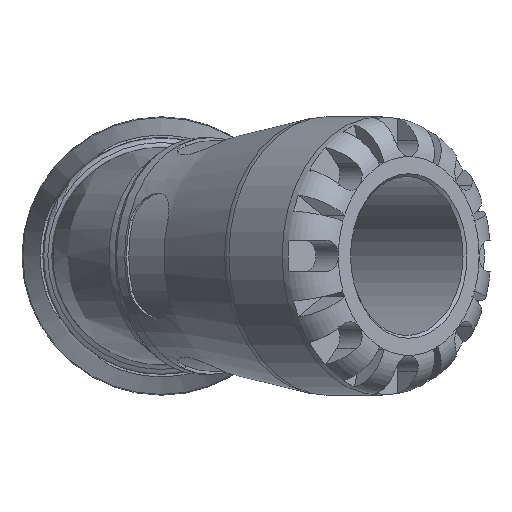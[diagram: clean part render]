
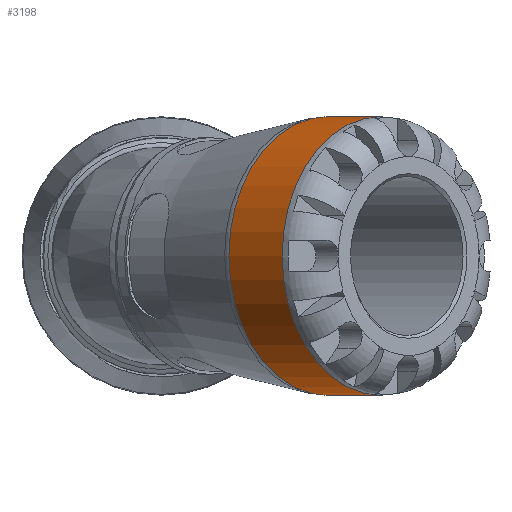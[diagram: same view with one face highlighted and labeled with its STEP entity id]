
A CAD part, left-side view. The second image highlights one B-rep face of the part: STEP entity #3198.
In plain terms, the highlighted cylindrical face has radius 35 mm (diameter 70 mm), a full revolution.
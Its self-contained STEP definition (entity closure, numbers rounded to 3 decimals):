
#469=CYLINDRICAL_SURFACE('',#3452,35.);
#659=FACE_BOUND('',#920,.T.);
#714=FACE_OUTER_BOUND('',#919,.T.);
#919=EDGE_LOOP('',(#2166));
#920=EDGE_LOOP('',(#2167));
#1162=CIRCLE('',#3451,35.);
#1163=CIRCLE('',#3453,35.);
#1348=VERTEX_POINT('',#5180);
#1349=VERTEX_POINT('',#5183);
#1665=EDGE_CURVE('',#1348,#1348,#1162,.T.);
#1666=EDGE_CURVE('',#1349,#1349,#1163,.T.);
#2166=ORIENTED_EDGE('',*,*,#1666,.F.);
#2167=ORIENTED_EDGE('',*,*,#1665,.F.);
#3198=ADVANCED_FACE('',(#714,#659),#469,.T.);
#3451=AXIS2_PLACEMENT_3D('',#5181,#3922,#3923);
#3452=AXIS2_PLACEMENT_3D('',#5182,#3924,#3925);
#3453=AXIS2_PLACEMENT_3D('',#5184,#3926,#3927);
#3922=DIRECTION('center_axis',(0.707,0.707,0.));
#3923=DIRECTION('ref_axis',(-0.707,0.707,0.));
#3924=DIRECTION('center_axis',(-0.707,-0.707,0.));
#3925=DIRECTION('ref_axis',(0.707,-0.707,0.));
#3926=DIRECTION('center_axis',(-0.707,-0.707,0.));
#3927=DIRECTION('ref_axis',(0.,0.,-1.));
#5180=CARTESIAN_POINT('',(-17.011,-66.509,0.));
#5181=CARTESIAN_POINT('Origin',(-41.76,-41.76,0.));
#5182=CARTESIAN_POINT('Origin',(-48.147,-48.147,0.));
#5183=CARTESIAN_POINT('',(-30.406,-79.903,0.));
#5184=CARTESIAN_POINT('Origin',(-55.154,-55.154,0.));
